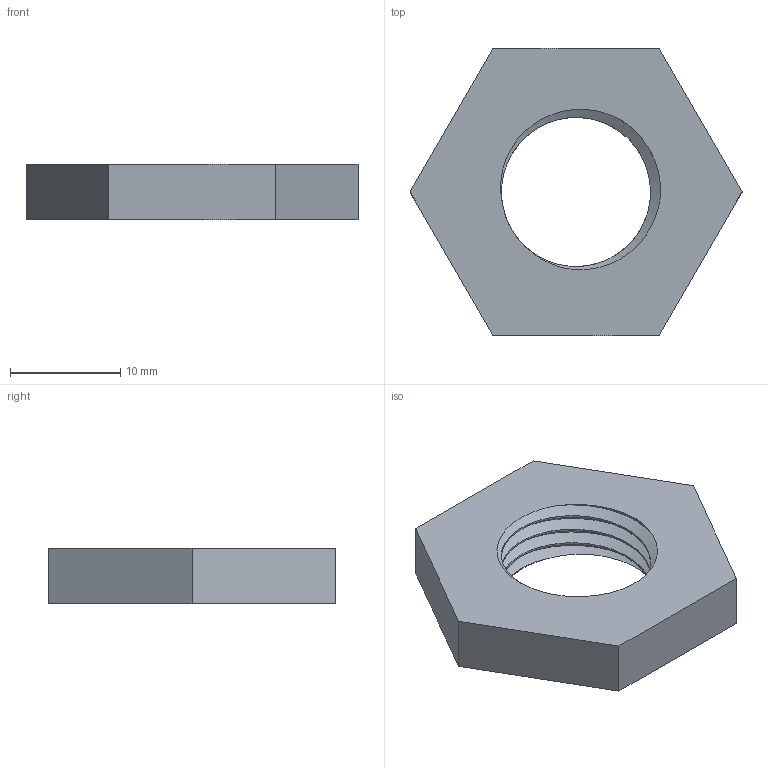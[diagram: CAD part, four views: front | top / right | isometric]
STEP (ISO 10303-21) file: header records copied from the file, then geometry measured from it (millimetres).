
FILE_DESCRIPTION(/* description */ (''),/* implementation_level */ '2;1');
FILE_NAME(/* name */ 'D:/Dokumenty/3D/Luke''s 3D/Projects/Spool winder v3/STEP/Nut.step',/* time_stamp */ '2021-11-14T13:05:27+01:00',/* author */ (''),/* organization */ (''),/* preprocessor_version */ 'ST-DEVELOPER v18.1',/* originating_system */ 'Autodesk Translation Framework v10.10.0.1391',/* authorisation */ '');
FILE_SCHEMA (('AUTOMOTIVE_DESIGN { 1 0 10303 214 3 1 1 }'));
Length unit declared in the file: millimetre
Products named in the file (4): Spool winder 2; SCREWS; SCREW; Screw (1)
Assembly tree (3 placements, depth 4):
  Spool winder 2
    SCREWS
      SCREW
        Screw (1)
Bounding box: 30.09 x 26.06 x 5 mm (x, y, z)
Volume: 2113.3 mm3; surface area: 1688.9 mm2
Topology: 1 solids, 1 shells, 19 faces, 51 edges, 34 vertices
Faces by surface type: cylinder 9, plane 8, bspline 2
Full cylindrical faces by diameter (mm): 13.526 x2, 15.403 x3
Entity records: 1778 total; most frequent: CARTESIAN_POINT 1246, ORIENTED_EDGE 102, DIRECTION 81, EDGE_CURVE 51, VERTEX_POINT 34, AXIS2_PLACEMENT_3D 28, LINE 25, VECTOR 25
